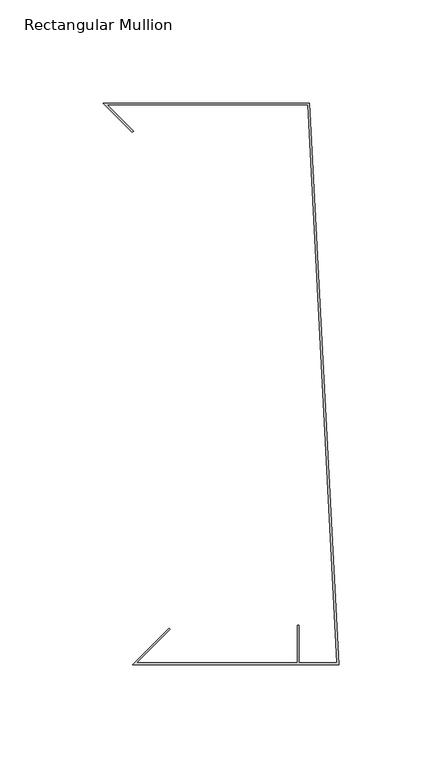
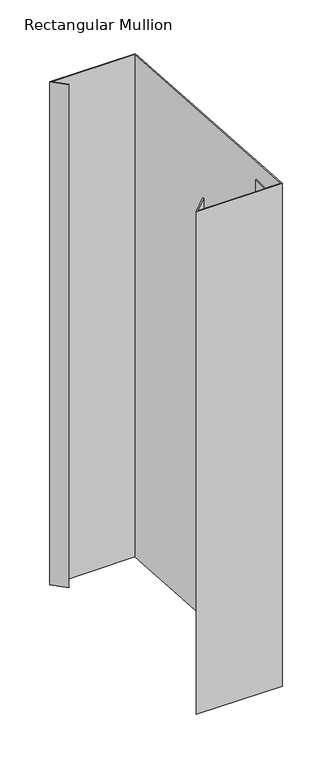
"""IFC4 building model written with IfcOpenShell, lengths in millimetres: member geometry, Rectangular Mullion : TI-V-03_01_Top parapet."""

from ifc_helpers import new_model, si_unit, frame, origin, place, context, project, spatial, polyline, outline, extrude, source, transform, mapped, element, save


def rectangular_mullion_b5ec325a(model_context):
    return source(origin(), model_context, "Body", "SweptSolid", [
        extrude(outline(polyline([(-100.0, -19.0), (-82.3223305, -1.3223305), (-81.756645, -1.8880159), (-98.0686292, -18.2), (-20.0, -18.2), (-20.0, 0.0), (-19.2, 0.0), (-19.2, -18.2), (-0.8430241, -18.2), (-15.0140876, 252.2), (-112.3235451, 252.2), (-99.5470949, 239.4235498), (-100.1127803, 238.8578644), (-114.254916, 253.0), (-14.254916, 253.0), (0.0, -19.0), (-100.0, -19.0)])), frame((0.0, 0.0, -619.9999997), z_axis=(0.0, 0.0, 1.0), x_axis=(1.0, 0.0, 0.0)), (0.0, 0.0, 1.0), 619.9999997),
    ])


if __name__ == "__main__":
    model = new_model("IFC4")
    model_context = context("Model", 3, world=origin())
    ifc_project = project(units=[si_unit("LENGTHUNIT", "METRE", prefix="MILLI")], contexts=[model_context])
    site = spatial("IfcSite", under=ifc_project)
    building = spatial("IfcBuilding", under=site)
    placement = place(None, origin())
    rectangular_mullion_shape = rectangular_mullion_b5ec325a(model_context)
    element("IfcMember", 1, ObjectType="Rectangular Mullion : TI-V-03_01_Top parapet", at=placement, inside=building, context=model_context, shape_type="MappedRepresentation", body=[
        mapped(rectangular_mullion_shape, transform((0.0, 0.0, 0.0), x_axis=(1.0, 0.0, 0.0), y_axis=(0.0, 1.0, 0.0), z_axis=(0.0, 0.0, 1.0))),
    ])
    save(model, "model.ifc")
